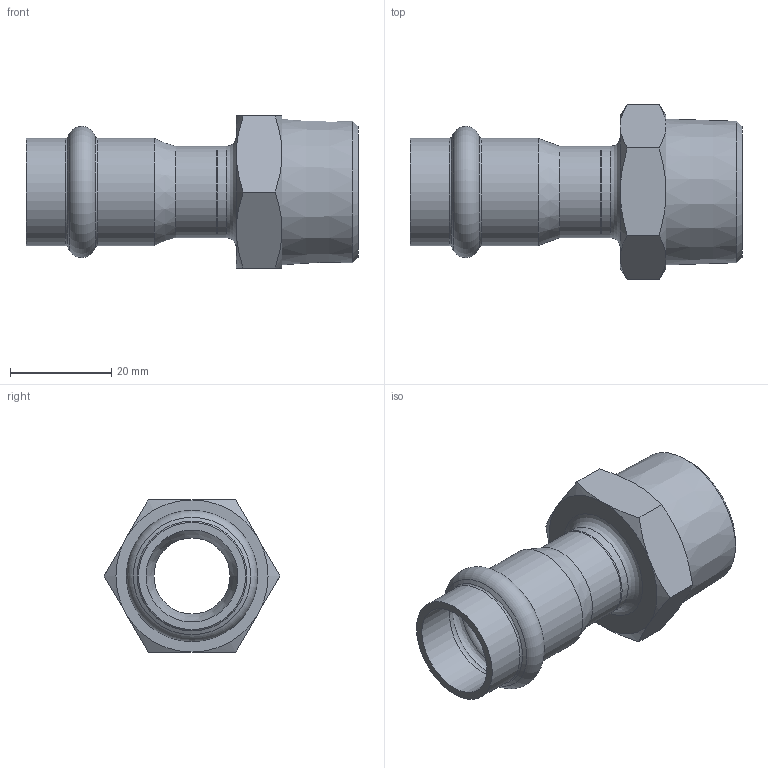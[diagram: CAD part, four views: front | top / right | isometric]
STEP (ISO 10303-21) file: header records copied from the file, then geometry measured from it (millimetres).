
FILE_DESCRIPTION((''),'2;1');
FILE_NAME('G:\Nirosan-Schmiedefeld\Technics\CAD\001 Serie 9.000\018\69243G1834H(2).stp','2018-08-28T08:52:42',('herberg'),(''),'Autodesk Inventor 2009','Autodesk Inventor 2009','');
FILE_SCHEMA(('AUTOMOTIVE_DESIGN { 1 0 10303 214 1 1 1 1 }'));
Products named in the file (3): 69243G1834H(2); 69HM18P(1); AG1834(2)
Assembly tree (2 placements, depth 2):
  69243G1834H(2)
    69HM18P(1)
    AG1834(2)
Bounding box: 65.5 x 34.64 x 30 mm (x, y, z)
Volume: 14014.6 mm3; surface area: 10054.3 mm2
Topology: 2 solids, 2 shells, 47 faces, 95 edges, 54 vertices
Faces by surface type: cone 18, plane 12, bspline 7, cylinder 7, torus 3
Full cylindrical faces by diameter (mm): 15 x1, 18 x2, 18.15 x2, 21.15 x2
Entity records: 1375 total; most frequent: CARTESIAN_POINT 485, DIRECTION 176, ORIENTED_EDGE 140, AXIS2_PLACEMENT_3D 85, EDGE_LOOP 76, EDGE_CURVE 70, VERTEX_POINT 52, FACE_OUTER_BOUND 47
